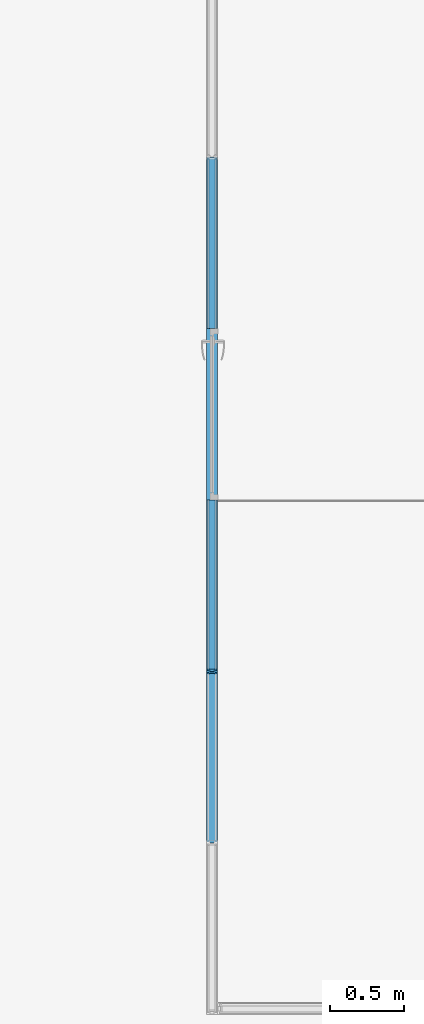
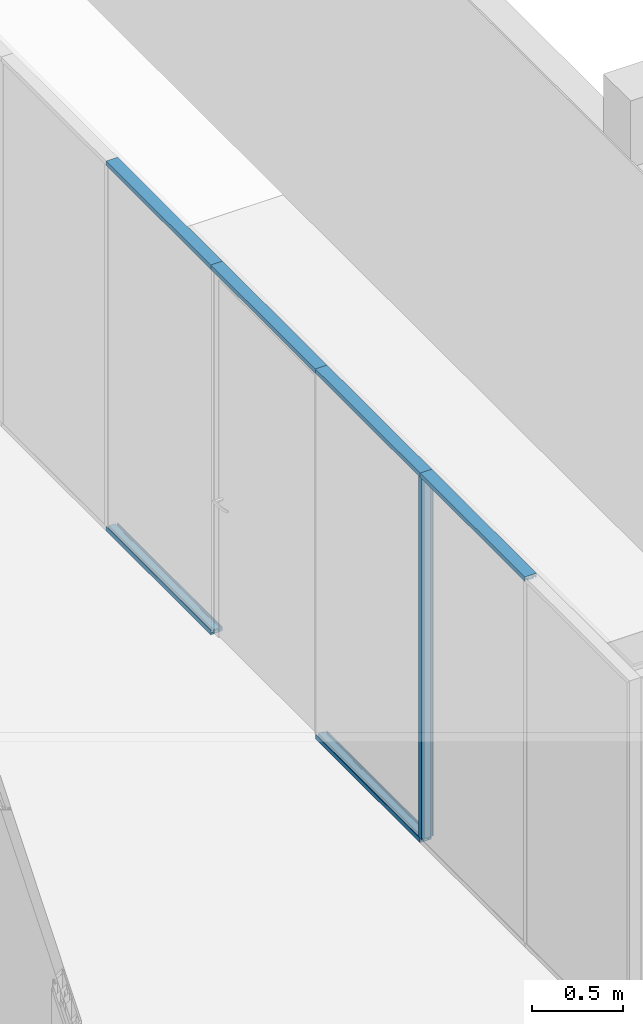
# One storey, part 7 of 79: 7 members, 1 element without a shape of its own.
"""IFC2X3 building model written with IfcOpenShell, lengths in millimetres."""

from ifc_helpers import new_model, entity, si_unit, converted_unit, derived_unit, money_unit, direction, frame, origin_with_axes, place, context, subcontext, project, spatial, faceted_brep, source, transform, mapped, material, material_list, type_object, element, aggregate, save


model = new_model("IFC2X3")

# Units and contexts
model_context = context("Model", 3, precision=0.01, world=origin_with_axes(), true_north=direction((0.0, 1.0)))
body_context = subcontext(model_context, "Body", "Model", "MODEL_VIEW")
ifc_project = project(units=[si_unit("LENGTHUNIT", "METRE", prefix="MILLI"), si_unit("AREAUNIT", "SQUARE_METRE"), si_unit("VOLUMEUNIT", "CUBIC_METRE"), converted_unit("PLANEANGLEUNIT", "DEGREE", entity("IfcPlaneAngleMeasure", 0.0174532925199), si_unit("PLANEANGLEUNIT", "RADIAN"), dimensions=[0, 0, 0, 0, 0, 0, 0]), si_unit("SOLIDANGLEUNIT", "STERADIAN"), money_unit("EUR"), converted_unit("TIMEUNIT", "Year", entity("IfcTimeMeasure", 31556926.0), si_unit("TIMEUNIT", "SECOND"), dimensions=[0, 0, 1, 0, 0, 0, 0]), si_unit("MASSUNIT", "GRAM", prefix="KILO"), si_unit("THERMODYNAMICTEMPERATUREUNIT", "DEGREE_CELSIUS"), si_unit("LUMINOUSINTENSITYUNIT", "LUMEN"), si_unit("ENERGYUNIT", "JOULE", prefix="MEGA"), derived_unit("THERMALCONDUCTANCEUNIT", [(si_unit("POWERUNIT", "WATT"), 1), (si_unit("LENGTHUNIT", "METRE"), -1), (si_unit("THERMODYNAMICTEMPERATUREUNIT", "KELVIN"), -1)]), derived_unit("SPECIFICHEATCAPACITYUNIT", [(si_unit("ENERGYUNIT", "JOULE"), 1), (si_unit("MASSUNIT", "GRAM", prefix="KILO"), -1), (si_unit("THERMODYNAMICTEMPERATUREUNIT", "KELVIN"), -1)]), derived_unit("MASSDENSITYUNIT", [(si_unit("MASSUNIT", "GRAM", prefix="KILO"), 1), (si_unit("VOLUMEUNIT", "CUBIC_METRE"), -1)])], contexts=[model_context])

# Site, building, storey
site_placement = place(None, origin_with_axes())
site = spatial("IfcSite", under=ifc_project, at=site_placement, Name="L.Koidula tn 11b", CompositionType="ELEMENT")
building_placement = place(site_placement, origin_with_axes())
building = spatial("IfcBuilding", under=site, at=building_placement, Name="Rakvere Riigigümnaasium", CompositionType="ELEMENT")
storey_placement = place(building_placement, frame((0.0, 0.0, 3720.0), z_axis=(0.0, 0.0, 1.0), x_axis=(1.0, 0.0, 0.0)))
storey = spatial("IfcBuildingStorey", under=building, at=storey_placement, Name="2.korrus +3,72", CompositionType="ELEMENT", Elevation=3720.0)

# Curtain wall, members
curtain_wall_type = type_object("IfcCurtainWallType", Name="Curtain Wall Type", PredefinedType="NOTDEFINED")
curtain_wall_placement = place(storey_placement, frame((44568.0000786, 20404.7190306, -3.55964617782e-05), z_axis=(0.0, 0.0, 1.0), x_axis=(1.0, 0.0, 0.0)))
curtain_wall = element("IfcCurtainWall", 1, at=curtain_wall_placement, inside=storey, type_object=curtain_wall_type, Name="SKLF-17")
ifc_material_1 = material(Name="Klaasvill")
ifc_material_2 = material(Name="Teras RAL7012")
ifc_material_list = material_list([ifc_material_1, ifc_material_2])
member_type_1 = type_object("IfcMemberType", Name="Boundary Frame 30 x 42", PredefinedType="MULLION")
shared_shape_1 = source(origin_with_axes(), body_context, "Body", "Brep", [
    faceted_brep([(-7.49999990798, 15.000000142, 0.0), (-7.49999990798, 15.000000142, 1156.0), (-13.8499999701, 15.000000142, 1156.0), (-13.8499999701, 15.000000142, 0.0), (-7.49999990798, 29.0161444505, 0.0), (-7.49999990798, 29.0161444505, 1156.0), (-13.8499999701, 29.0161444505, 1156.0), (-13.8499999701, 29.0161444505, 0.0)], [[[0, 1, 2, 3]], [[4, 5, 1, 0]], [[1, 5, 6, 2]], [[3, 2, 6, 7]], [[0, 3, 7, 4]], [[7, 6, 5, 4]]]),
    faceted_brep([(-24.987414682, 29.0161444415, 0.0), (-24.987414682, 29.0161444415, 1156.0), (-25.004489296, 27.0307503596, 1156.0), (-25.004489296, 27.0307503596, 0.0), (-28.5126239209, 29.0161444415, 0.0), (-28.5126239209, 29.0161444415, 1156.0), (-28.7655837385, 28.0385325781, 1156.0), (-28.4955493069, 27.0307503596, 1156.0), (-27.75780152, 26.2930025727, 1156.0), (-26.7500193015, 26.0229681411, 1156.0), (-25.742237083, 26.2930025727, 1156.0), (-25.742237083, 26.2930025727, 0.0), (-26.7500193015, 26.0229681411, 0.0), (-27.75780152, 26.2930025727, 0.0), (-28.4955493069, 27.0307503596, 0.0), (-28.7655837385, 28.0385325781, 0.0)], [[[0, 1, 2, 3]], [[4, 5, 1, 0]], [[1, 5, 6, 7, 8, 9, 10, 2]], [[3, 2, 10, 11]], [[0, 3, 11, 12, 13, 14, 15, 4]], [[15, 6, 5, 4]], [[14, 7, 6, 15]], [[13, 8, 7, 14]], [[12, 9, 8, 13]], [[11, 10, 9, 12]]]),
    faceted_brep([(-7.49999990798, -24.9999997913, 0.0), (-7.49999990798, -24.9999997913, 1156.0), (-7.49999990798, -39.0161445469, 1156.0), (-7.49999990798, -39.0161445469, 0.0), (-13.8499999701, -24.9999997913, 0.0), (-13.8499999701, -24.9999997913, 1156.0), (-13.8499999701, -39.0161445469, 1156.0), (-13.8499999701, -39.0161445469, 0.0)], [[[0, 1, 2, 3]], [[4, 5, 1, 0]], [[1, 5, 6, 2]], [[3, 2, 6, 7]], [[0, 3, 7, 4]], [[7, 6, 5, 4]]]),
    faceted_brep([(-25.004489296, -37.0307503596, 0.0), (-25.004489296, -37.0307503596, 1156.0), (-24.987414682, -39.0161444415, 1156.0), (-24.987414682, -39.0161444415, 0.0), (-25.742237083, -36.2930025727, 0.0), (-25.742237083, -36.2930025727, 1156.0), (-26.7500193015, -36.0229681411, 1156.0), (-27.75780152, -36.2930025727, 1156.0), (-28.4955493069, -37.0307503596, 1156.0), (-28.7655837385, -38.0385325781, 1156.0), (-28.5126239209, -39.0161444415, 1156.0), (-28.5126239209, -39.0161444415, 0.0), (-28.7655837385, -38.0385325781, 0.0), (-28.4955493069, -37.0307503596, 0.0), (-27.75780152, -36.2930025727, 0.0), (-26.7500193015, -36.0229681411, 0.0)], [[[0, 1, 2, 3]], [[4, 5, 1, 0]], [[1, 5, 6, 7, 8, 9, 10, 2]], [[3, 2, 10, 11]], [[0, 3, 11, 12, 13, 14, 15, 4]], [[15, 6, 5, 4]], [[14, 7, 6, 15]], [[13, 8, 7, 14]], [[12, 9, 8, 13]], [[11, 10, 9, 12]]]),
    faceted_brep([(0.0, -22.0000000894, 0.0), (0.0, -22.0000000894, 1156.0), (-29.5999996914, -22.0000000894, 1156.0), (-29.5999996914, -22.0000000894, 0.0), (0.0, 12.0000000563, 0.0), (0.0, 12.0000000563, 1156.0), (-29.5999996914, 12.0000000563, 1156.0), (-1.9999999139, 10.0000001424, 1156.0), (-1.9999999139, -20.0000001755, 1156.0), (-18.7999996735, -20.0000001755, 1156.0), (-18.7999996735, 10.0000001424, 1156.0), (-29.5999996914, 12.0000000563, 0.0), (-1.9999999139, 10.0000001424, 0.0), (-18.7999996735, 10.0000001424, 0.0), (-18.7999996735, -20.0000001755, 0.0), (-1.9999999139, -20.0000001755, 0.0)], [[[0, 1, 2, 3]], [[4, 5, 1, 0]], [[1, 5, 6, 2], [7, 8, 9, 10]], [[3, 2, 6, 11]], [[0, 3, 11, 4], [12, 13, 14, 15]], [[11, 6, 5, 4]], [[15, 8, 7, 12]], [[14, 9, 8, 15]], [[13, 10, 9, 14]], [[12, 7, 10, 13]]]),
    faceted_brep([(0.0, 12.0, 0.0), (0.0, 12.0, 1156.0), (-29.5999996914, 12.0000000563, 1156.0), (-29.5999996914, 12.0000000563, 0.0), (0.0, 32.0, 0.0), (0.0, 32.0, 1156.0), (-30.0000193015, 32.0, 1156.0), (-30.0000193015, 29.0161444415, 1156.0), (-28.5126239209, 29.0161444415, 1156.0), (-24.987414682, 29.0161444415, 1156.0), (-13.8499999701, 29.0161444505, 1156.0), (-7.49999999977, 29.0161444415, 1156.0), (-7.49999999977, 15.0, 1156.0), (-13.8499999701, 15.000000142, 1156.0), (-30.0000193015, 15.0, 1156.0), (-30.0000193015, 12.0, 1156.0), (-30.0000193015, 12.0, 0.0), (-30.0000193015, 15.0, 0.0), (-13.8499999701, 15.000000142, 0.0), (-7.49999999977, 15.0, 0.0), (-7.49999999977, 29.0161444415, 0.0), (-13.8499999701, 29.0161444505, 0.0), (-24.987414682, 29.0161444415, 0.0), (-28.5126239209, 29.0161444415, 0.0), (-30.0000193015, 29.0161444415, 0.0), (-30.0000193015, 32.0, 0.0)], [[[0, 1, 2, 3]], [[4, 5, 1, 0]], [[1, 5, 6, 7, 8, 9, 10, 11, 12, 13, 14, 15, 2]], [[3, 2, 15, 16]], [[0, 3, 16, 17, 18, 19, 20, 21, 22, 23, 24, 25, 4]], [[25, 6, 5, 4]], [[24, 7, 6, 25]], [[23, 8, 7, 24]], [[22, 9, 8, 23]], [[21, 10, 9, 22]], [[20, 11, 10, 21]], [[19, 12, 11, 20]], [[18, 13, 12, 19]], [[17, 14, 13, 18]], [[16, 15, 14, 17]]]),
    faceted_brep([(0.0, -22.0, 0.0), (0.0, -22.0, 1156.0), (0.0, -42.0, 1156.0), (0.0, -42.0, 0.0), (-29.5999996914, -22.0000000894, 0.0), (-29.5999996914, -22.0000000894, 1156.0), (-30.0000193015, -22.0, 1156.0), (-30.0000193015, -25.0, 1156.0), (-13.8499999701, -24.9999997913, 1156.0), (-7.49999999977, -25.0, 1156.0), (-7.49999999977, -39.0161444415, 1156.0), (-13.8499999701, -39.0161445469, 1156.0), (-24.987414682, -39.0161444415, 1156.0), (-28.5126239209, -39.0161444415, 1156.0), (-30.0000193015, -39.0161444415, 1156.0), (-30.0000193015, -42.0, 1156.0), (-30.0000193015, -42.0, 0.0), (-30.0000193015, -39.0161444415, 0.0), (-28.5126239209, -39.0161444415, 0.0), (-24.987414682, -39.0161444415, 0.0), (-13.8499999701, -39.0161445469, 0.0), (-7.49999999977, -39.0161444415, 0.0), (-7.49999999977, -25.0, 0.0), (-13.8499999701, -24.9999997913, 0.0), (-30.0000193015, -25.0, 0.0), (-30.0000193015, -22.0, 0.0)], [[[0, 1, 2, 3]], [[4, 5, 1, 0]], [[1, 5, 6, 7, 8, 9, 10, 11, 12, 13, 14, 15, 2]], [[3, 2, 15, 16]], [[0, 3, 16, 17, 18, 19, 20, 21, 22, 23, 24, 25, 4]], [[25, 6, 5, 4]], [[24, 7, 6, 25]], [[23, 8, 7, 24]], [[22, 9, 8, 23]], [[21, 10, 9, 22]], [[20, 11, 10, 21]], [[19, 12, 11, 20]], [[18, 13, 12, 19]], [[17, 14, 13, 18]], [[16, 15, 14, 17]]]),
])
member_1_placement = place(curtain_wall_placement, frame((0.0, 578.5, 2493.0000356), z_axis=(0.0, 1.0, 0.0), x_axis=(0.0, 0.0, 1.0)))
member_1 = element("IfcMember", 2, at=member_1_placement, type_object=member_type_1, material=ifc_material_list, Name="SKLF-80-raam", ObjectType="MULLION", context=body_context, shape_type="MappedRepresentation", body=[
    mapped(shared_shape_1, transform((0.0, 0.0, 0.0))),
])
member_2_placement = place(curtain_wall_placement, frame((0.0, 1734.5, 2493.0000356), z_axis=(0.0, 1.0, 0.0), x_axis=(0.0, 0.0, 1.0)))
member_2 = element("IfcMember", 3, at=member_2_placement, type_object=member_type_1, material=ifc_material_list, Name="SKLF-79-raam", ObjectType="MULLION", context=body_context, shape_type="MappedRepresentation", body=[
    mapped(shared_shape_1, transform((0.0, 0.0, 0.0))),
])
member_3_placement = place(curtain_wall_placement, frame((0.0, 2890.5, 2493.0000356), z_axis=(0.0, 1.0, 0.0), x_axis=(0.0, 0.0, 1.0)))
member_3 = element("IfcMember", 4, at=member_3_placement, type_object=member_type_1, material=ifc_material_list, Name="SKLF-78-raam", ObjectType="MULLION", context=body_context, shape_type="MappedRepresentation", body=[
    mapped(shared_shape_1, transform((0.0, 0.0, 0.0))),
])
member_4_placement = place(curtain_wall_placement, frame((0.0, 4046.5, 2493.0000356), z_axis=(0.0, 1.0, 0.0), x_axis=(0.0, 0.0, 1.0)))
member_4 = element("IfcMember", 5, at=member_4_placement, type_object=member_type_1, material=ifc_material_list, Name="SKLF-77-raam", ObjectType="MULLION", context=body_context, shape_type="MappedRepresentation", body=[
    mapped(shared_shape_1, transform((0.0, 0.0, 0.0))),
])
shared_shape_2 = source(origin_with_axes(), body_context, "Body", "Brep", [
    faceted_brep([(7.49999990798, 15.000000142, 0.0), (13.8499999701, 15.000000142, 0.0), (13.8499999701, 15.000000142, 1156.0), (7.49999990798, 15.000000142, 1156.0), (7.49999990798, 29.0161444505, 0.0), (13.8499999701, 29.0161444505, 0.0), (13.8499999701, 29.0161444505, 1156.0), (7.49999990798, 29.0161444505, 1156.0)], [[[0, 1, 2, 3]], [[0, 4, 5, 1]], [[1, 5, 6, 2]], [[3, 2, 6, 7]], [[4, 0, 3, 7]], [[5, 4, 7, 6]]]),
    faceted_brep([(24.987414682, 29.0161444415, 0.0), (25.004489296, 27.0307503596, 0.0), (25.004489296, 27.0307503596, 1156.0), (24.987414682, 29.0161444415, 1156.0), (28.5126239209, 29.0161444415, 0.0), (28.7655837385, 28.0385325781, 0.0), (28.4955493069, 27.0307503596, 0.0), (27.75780152, 26.2930025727, 0.0), (26.7500193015, 26.0229681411, 0.0), (25.742237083, 26.2930025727, 0.0), (25.742237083, 26.2930025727, 1156.0), (26.7500193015, 26.0229681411, 1156.0), (27.75780152, 26.2930025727, 1156.0), (28.4955493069, 27.0307503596, 1156.0), (28.7655837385, 28.0385325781, 1156.0), (28.5126239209, 29.0161444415, 1156.0)], [[[0, 1, 2, 3]], [[0, 4, 5, 6, 7, 8, 9, 1]], [[1, 9, 10, 2]], [[3, 2, 10, 11, 12, 13, 14, 15]], [[4, 0, 3, 15]], [[5, 4, 15, 14]], [[6, 5, 14, 13]], [[7, 6, 13, 12]], [[8, 7, 12, 11]], [[9, 8, 11, 10]]]),
    faceted_brep([(7.49999990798, -24.9999997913, 0.0), (7.49999990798, -39.0161445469, 0.0), (7.49999990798, -39.0161445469, 1156.0), (7.49999990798, -24.9999997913, 1156.0), (13.8499999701, -24.9999997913, 0.0), (13.8499999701, -39.0161445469, 0.0), (13.8499999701, -39.0161445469, 1156.0), (13.8499999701, -24.9999997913, 1156.0)], [[[0, 1, 2, 3]], [[0, 4, 5, 1]], [[1, 5, 6, 2]], [[3, 2, 6, 7]], [[4, 0, 3, 7]], [[5, 4, 7, 6]]]),
    faceted_brep([(25.004489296, -37.0307503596, 0.0), (24.987414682, -39.0161444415, 0.0), (24.987414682, -39.0161444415, 1156.0), (25.004489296, -37.0307503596, 1156.0), (25.742237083, -36.2930025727, 0.0), (26.7500193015, -36.0229681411, 0.0), (27.75780152, -36.2930025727, 0.0), (28.4955493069, -37.0307503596, 0.0), (28.7655837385, -38.0385325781, 0.0), (28.5126239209, -39.0161444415, 0.0), (28.5126239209, -39.0161444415, 1156.0), (28.7655837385, -38.0385325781, 1156.0), (28.4955493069, -37.0307503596, 1156.0), (27.75780152, -36.2930025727, 1156.0), (26.7500193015, -36.0229681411, 1156.0), (25.742237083, -36.2930025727, 1156.0)], [[[0, 1, 2, 3]], [[0, 4, 5, 6, 7, 8, 9, 1]], [[1, 9, 10, 2]], [[3, 2, 10, 11, 12, 13, 14, 15]], [[4, 0, 3, 15]], [[5, 4, 15, 14]], [[6, 5, 14, 13]], [[7, 6, 13, 12]], [[8, 7, 12, 11]], [[9, 8, 11, 10]]]),
    faceted_brep([(0.0, -22.0000000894, 0.0), (29.5999996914, -22.0000000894, 0.0), (29.5999996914, -22.0000000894, 1156.0), (0.0, -22.0000000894, 1156.0), (0.0, 12.0000000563, 0.0), (29.5999996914, 12.0000000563, 0.0), (1.9999999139, 10.0000001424, 0.0), (1.9999999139, -20.0000001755, 0.0), (18.7999996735, -20.0000001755, 0.0), (18.7999996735, 10.0000001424, 0.0), (29.5999996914, 12.0000000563, 1156.0), (0.0, 12.0000000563, 1156.0), (1.9999999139, 10.0000001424, 1156.0), (18.7999996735, 10.0000001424, 1156.0), (18.7999996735, -20.0000001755, 1156.0), (1.9999999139, -20.0000001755, 1156.0)], [[[0, 1, 2, 3]], [[0, 4, 5, 1], [6, 7, 8, 9]], [[1, 5, 10, 2]], [[3, 2, 10, 11], [12, 13, 14, 15]], [[4, 0, 3, 11]], [[5, 4, 11, 10]], [[7, 6, 12, 15]], [[8, 7, 15, 14]], [[9, 8, 14, 13]], [[6, 9, 13, 12]]]),
    faceted_brep([(0.0, 12.0, 0.0), (29.5999996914, 12.0000000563, 0.0), (29.5999996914, 12.0000000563, 1156.0), (0.0, 12.0, 1156.0), (0.0, 32.0, 0.0), (30.0000193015, 32.0, 0.0), (30.0000193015, 29.0161444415, 0.0), (28.5126239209, 29.0161444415, 0.0), (24.987414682, 29.0161444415, 0.0), (13.8499999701, 29.0161444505, 0.0), (7.49999999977, 29.0161444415, 0.0), (7.49999999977, 15.0, 0.0), (13.8499999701, 15.000000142, 0.0), (30.0000193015, 15.0, 0.0), (30.0000193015, 12.0, 0.0), (30.0000193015, 12.0, 1156.0), (30.0000193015, 15.0, 1156.0), (13.8499999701, 15.000000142, 1156.0), (7.49999999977, 15.0, 1156.0), (7.49999999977, 29.0161444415, 1156.0), (13.8499999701, 29.0161444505, 1156.0), (24.987414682, 29.0161444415, 1156.0), (28.5126239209, 29.0161444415, 1156.0), (30.0000193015, 29.0161444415, 1156.0), (30.0000193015, 32.0, 1156.0), (0.0, 32.0, 1156.0)], [[[0, 1, 2, 3]], [[0, 4, 5, 6, 7, 8, 9, 10, 11, 12, 13, 14, 1]], [[1, 14, 15, 2]], [[3, 2, 15, 16, 17, 18, 19, 20, 21, 22, 23, 24, 25]], [[4, 0, 3, 25]], [[5, 4, 25, 24]], [[6, 5, 24, 23]], [[7, 6, 23, 22]], [[8, 7, 22, 21]], [[9, 8, 21, 20]], [[10, 9, 20, 19]], [[11, 10, 19, 18]], [[12, 11, 18, 17]], [[13, 12, 17, 16]], [[14, 13, 16, 15]]]),
    faceted_brep([(0.0, -22.0, 0.0), (0.0, -42.0, 0.0), (0.0, -42.0, 1156.0), (0.0, -22.0, 1156.0), (29.5999996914, -22.0000000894, 0.0), (30.0000193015, -22.0, 0.0), (30.0000193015, -25.0, 0.0), (13.8499999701, -24.9999997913, 0.0), (7.49999999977, -25.0, 0.0), (7.49999999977, -39.0161444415, 0.0), (13.8499999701, -39.0161445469, 0.0), (24.987414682, -39.0161444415, 0.0), (28.5126239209, -39.0161444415, 0.0), (30.0000193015, -39.0161444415, 0.0), (30.0000193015, -42.0, 0.0), (30.0000193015, -42.0, 1156.0), (30.0000193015, -39.0161444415, 1156.0), (28.5126239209, -39.0161444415, 1156.0), (24.987414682, -39.0161444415, 1156.0), (13.8499999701, -39.0161445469, 1156.0), (7.49999999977, -39.0161444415, 1156.0), (7.49999999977, -25.0, 1156.0), (13.8499999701, -24.9999997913, 1156.0), (30.0000193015, -25.0, 1156.0), (30.0000193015, -22.0, 1156.0), (29.5999996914, -22.0000000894, 1156.0)], [[[0, 1, 2, 3]], [[0, 4, 5, 6, 7, 8, 9, 10, 11, 12, 13, 14, 1]], [[1, 14, 15, 2]], [[3, 2, 15, 16, 17, 18, 19, 20, 21, 22, 23, 24, 25]], [[4, 0, 3, 25]], [[5, 4, 25, 24]], [[6, 5, 24, 23]], [[7, 6, 23, 22]], [[8, 7, 22, 21]], [[9, 8, 21, 20]], [[10, 9, 20, 19]], [[11, 10, 19, 18]], [[12, 11, 18, 17]], [[13, 12, 17, 16]], [[14, 13, 16, 15]]]),
])
member_5_placement = place(curtain_wall_placement, frame((0.0, 1734.5, 0.0), z_axis=(0.0, 1.0, 0.0), x_axis=(0.0, 0.0, 1.0)))
member_5 = element("IfcMember", 6, at=member_5_placement, type_object=member_type_1, material=ifc_material_list, Name="SKLF-69-raam", ObjectType="MULLION", context=body_context, shape_type="MappedRepresentation", body=[
    mapped(shared_shape_2, transform((0.0, 0.0, 0.0))),
])
member_6_placement = place(curtain_wall_placement, frame((0.0, 4046.5, 0.0), z_axis=(0.0, 1.0, 0.0), x_axis=(0.0, 0.0, 1.0)))
member_6 = element("IfcMember", 7, at=member_6_placement, type_object=member_type_1, material=ifc_material_list, Name="SKLF-71-raam", ObjectType="MULLION", context=body_context, shape_type="MappedRepresentation", body=[
    mapped(shared_shape_2, transform((0.0, 0.0, 0.0))),
])
member_type_2 = type_object("IfcMemberType", Name="Siseklaasfassaad-Vaheprofiil-Doubleline30 34 x 42", PredefinedType="MULLION")
shared_shape_3 = source(origin_with_axes(), body_context, "Body", "Brep", [
    faceted_brep([(12.004489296, 27.0307503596, 30.0000193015), (12.004489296, 27.0307503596, 2463.00001629), (11.987414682, 29.0161444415, 2463.00001629), (11.987414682, 29.0161444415, 30.0000193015), (12.742237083, 26.2930025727, 30.0000193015), (12.742237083, 26.2930025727, 2463.00001629), (13.7500193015, 26.0229681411, 2463.00001629), (14.75780152, 26.2930025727, 2463.00001629), (15.4955493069, 27.0307503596, 2463.00001629), (15.7655837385, 28.0385325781, 2463.00001629), (15.5126239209, 29.0161444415, 2463.00001629), (15.5126239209, 29.0161444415, 30.0000193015), (15.7655837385, 28.0385325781, 30.0000193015), (15.4955493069, 27.0307503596, 30.0000193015), (14.75780152, 26.2930025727, 30.0000193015), (13.7500193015, 26.0229681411, 30.0000193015)], [[[0, 1, 2, 3]], [[4, 5, 1, 0]], [[2, 1, 5, 6, 7, 8, 9, 10]], [[3, 2, 10, 11]], [[3, 11, 12, 13, 14, 15, 4, 0]], [[15, 6, 5, 4]], [[14, 7, 6, 15]], [[13, 8, 7, 14]], [[12, 9, 8, 13]], [[11, 10, 9, 12]]]),
    faceted_brep([(15.4955493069, -37.0307503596, 30.0000193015), (15.4955493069, -37.0307503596, 2463.00001629), (15.5126239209, -39.0161444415, 2463.00001629), (15.5126239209, -39.0161444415, 30.0000193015), (14.75780152, -36.2930025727, 30.0000193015), (14.75780152, -36.2930025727, 2463.00001629), (13.7500193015, -36.0229681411, 2463.00001629), (12.742237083, -36.2930025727, 2463.00001629), (12.004489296, -37.0307503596, 2463.00001629), (11.7344548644, -38.0385325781, 2463.00001629), (11.987414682, -39.0161444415, 2463.00001629), (11.987414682, -39.0161444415, 30.0000193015), (11.7344548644, -38.0385325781, 30.0000193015), (12.004489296, -37.0307503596, 30.0000193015), (12.742237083, -36.2930025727, 30.0000193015), (13.7500193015, -36.0229681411, 30.0000193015)], [[[0, 1, 2, 3]], [[4, 5, 1, 0]], [[2, 1, 5, 6, 7, 8, 9, 10]], [[3, 2, 10, 11]], [[3, 11, 12, 13, 14, 15, 4, 0]], [[15, 6, 5, 4]], [[14, 7, 6, 15]], [[13, 8, 7, 14]], [[12, 9, 8, 13]], [[11, 10, 9, 12]]]),
    faceted_brep([(-15.7655837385, 28.0385325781, 30.0000193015), (-15.7655837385, 28.0385325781, 2463.00001629), (-11.987414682, 29.0161444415, 2463.00001629), (-11.987414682, 29.0161444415, 30.0000193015), (-15.4955493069, 27.0307503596, 30.0000193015), (-15.4955493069, 27.0307503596, 2463.00001629), (-14.75780152, 26.2930025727, 2463.00001629), (-13.7500193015, 26.0229681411, 2463.00001629), (-12.742237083, 26.2930025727, 2463.00001629), (-12.004489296, 27.0307503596, 2463.00001629), (-11.7344548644, 28.0385325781, 2463.00001629), (-11.7344548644, 28.0385325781, 30.0000193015), (-12.004489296, 27.0307503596, 30.0000193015), (-12.742237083, 26.2930025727, 30.0000193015), (-13.7500193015, 26.0229681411, 30.0000193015), (-14.75780152, 26.2930025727, 30.0000193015)], [[[0, 1, 2, 3]], [[4, 5, 1, 0]], [[2, 1, 5, 6, 7, 8, 9, 10]], [[3, 2, 10, 11]], [[3, 11, 12, 13, 14, 15, 4, 0]], [[15, 6, 5, 4]], [[14, 7, 6, 15]], [[13, 8, 7, 14]], [[12, 9, 8, 13]], [[11, 10, 9, 12]]]),
    faceted_brep([(-15.5126239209, -39.0161444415, 30.0000193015), (-15.5126239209, -39.0161444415, 2463.00001629), (-15.4955493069, -37.0307503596, 2463.00001629), (-15.4955493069, -37.0307503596, 30.0000193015), (-11.987414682, -39.0161444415, 30.0000193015), (-11.987414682, -39.0161444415, 2463.00001629), (-11.7344548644, -38.0385325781, 2463.00001629), (-12.004489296, -37.0307503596, 2463.00001629), (-12.742237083, -36.2930025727, 2463.00001629), (-13.7500193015, -36.0229681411, 2463.00001629), (-14.75780152, -36.2930025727, 2463.00001629), (-14.75780152, -36.2930025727, 30.0000193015), (-13.7500193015, -36.0229681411, 30.0000193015), (-12.742237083, -36.2930025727, 30.0000193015), (-12.004489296, -37.0307503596, 30.0000193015), (-11.7344548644, -38.0385325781, 30.0000193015)], [[[0, 1, 2, 3]], [[4, 5, 1, 0]], [[2, 1, 5, 6, 7, 8, 9, 10]], [[3, 2, 10, 11]], [[3, 11, 12, 13, 14, 15, 4, 0]], [[15, 6, 5, 4]], [[14, 7, 6, 15]], [[13, 8, 7, 14]], [[12, 9, 8, 13]], [[11, 10, 9, 12]]]),
    faceted_brep([(-3.08905781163e-07, -22.0000000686, 30.0000193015), (-3.08905781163e-07, -22.0000000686, 2463.00001629), (-14.8000001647, -22.0000000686, 2463.00001629), (-14.8000001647, -22.0000000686, 30.0000193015), (14.8000003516, -22.0000000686, 30.0000193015), (14.8000003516, -22.0000000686, 2463.00001629), (14.8000003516, 12.0000001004, 2463.00001629), (-3.08905781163e-07, 12.0000001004, 2463.00001629), (-14.8000001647, 12.0000001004, 2463.00001629), (-12.8000002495, 10.0000001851, 2463.00001629), (4.0000003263, 10.0000001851, 2463.00001629), (4.0000003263, -20.0000001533, 2463.00001629), (-12.8000002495, -20.0000001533, 2463.00001629), (-14.8000001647, 12.0000001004, 30.0000193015), (-3.08905781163e-07, 12.0000001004, 30.0000193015), (14.8000003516, 12.0000001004, 30.0000193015), (-12.8000002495, 10.0000001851, 30.0000193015), (-12.8000002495, -20.0000001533, 30.0000193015), (4.0000003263, -20.0000001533, 30.0000193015), (4.0000003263, 10.0000001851, 30.0000193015)], [[[0, 1, 2, 3]], [[4, 5, 1, 0]], [[2, 1, 5, 6, 7, 8], [9, 10, 11, 12]], [[3, 2, 8, 13]], [[3, 13, 14, 15, 4, 0], [16, 17, 18, 19]], [[15, 6, 5, 4]], [[14, 7, 6, 15]], [[13, 8, 7, 14]], [[19, 10, 9, 16]], [[18, 11, 10, 19]], [[17, 12, 11, 18]], [[16, 9, 12, 17]]]),
    faceted_brep([(0.0, 12.0, 30.0000193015), (0.0, 12.0, 2463.00001629), (0.0, 32.0000000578, 2463.00001629), (0.0, 32.0000000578, 30.0000193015), (14.8000003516, 12.0000001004, 30.0000193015), (14.8000003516, 12.0000001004, 2463.00001629), (17.0000193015, 12.0, 2463.00001629), (17.0000193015, 15.0000000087, 2463.00001629), (7.50000002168, 15.0000000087, 2463.00001629), (7.50000002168, 29.0161446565, 2463.00001629), (11.987414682, 29.0161444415, 2463.00001629), (15.5126239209, 29.0161444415, 2463.00001629), (17.0000193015, 29.0161446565, 2463.00001629), (17.0000193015, 32.0000000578, 2463.00001629), (17.0000193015, 32.0000000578, 30.0000193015), (17.0000193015, 29.0161446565, 30.0000193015), (15.5126239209, 29.0161444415, 30.0000193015), (11.987414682, 29.0161444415, 30.0000193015), (7.50000002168, 29.0161446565, 30.0000193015), (7.50000002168, 15.0000000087, 30.0000193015), (17.0000193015, 15.0000000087, 30.0000193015), (17.0000193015, 12.0, 30.0000193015)], [[[0, 1, 2, 3]], [[4, 5, 1, 0]], [[2, 1, 5, 6, 7, 8, 9, 10, 11, 12, 13]], [[3, 2, 13, 14]], [[3, 14, 15, 16, 17, 18, 19, 20, 21, 4, 0]], [[21, 6, 5, 4]], [[20, 7, 6, 21]], [[19, 8, 7, 20]], [[18, 9, 8, 19]], [[17, 10, 9, 18]], [[16, 11, 10, 17]], [[15, 12, 11, 16]], [[14, 13, 12, 15]]]),
    faceted_brep([(0.0, -42.0, 30.0000193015), (0.0, -42.0, 2463.00001629), (0.0, -21.9999999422, 2463.00001629), (0.0, -21.9999999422, 30.0000193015), (17.0000193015, -42.0, 30.0000193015), (17.0000193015, -42.0, 2463.00001629), (17.0000193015, -39.0161445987, 2463.00001629), (15.5126239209, -39.0161444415, 2463.00001629), (11.987414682, -39.0161444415, 2463.00001629), (7.50000002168, -39.0161445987, 2463.00001629), (7.50000002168, -24.9999999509, 2463.00001629), (17.0000193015, -24.9999999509, 2463.00001629), (17.0000193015, -21.9999999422, 2463.00001629), (14.8000003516, -22.0000000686, 2463.00001629), (14.8000003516, -22.0000000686, 30.0000193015), (17.0000193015, -21.9999999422, 30.0000193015), (17.0000193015, -24.9999999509, 30.0000193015), (7.50000002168, -24.9999999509, 30.0000193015), (7.50000002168, -39.0161445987, 30.0000193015), (11.987414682, -39.0161444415, 30.0000193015), (15.5126239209, -39.0161444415, 30.0000193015), (17.0000193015, -39.0161445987, 30.0000193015)], [[[0, 1, 2, 3]], [[4, 5, 1, 0]], [[2, 1, 5, 6, 7, 8, 9, 10, 11, 12, 13]], [[3, 2, 13, 14]], [[3, 14, 15, 16, 17, 18, 19, 20, 21, 4, 0]], [[21, 6, 5, 4]], [[20, 7, 6, 21]], [[19, 8, 7, 20]], [[18, 9, 8, 19]], [[17, 10, 9, 18]], [[16, 11, 10, 17]], [[15, 12, 11, 16]], [[14, 13, 12, 15]]]),
    faceted_brep([(0.0, 32.0, 30.0000193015), (0.0, 32.0, 2463.00001629), (0.0, 12.0, 2463.00001629), (0.0, 12.0, 30.0000193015), (-17.0000193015, 32.0, 30.0000193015), (-17.0000193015, 32.0, 2463.00001629), (-17.0000193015, 29.0161444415, 2463.00001629), (-15.5126239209, 29.0161444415, 2463.00001629), (-11.987414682, 29.0161444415, 2463.00001629), (-7.49999999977, 29.0161444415, 2463.00001629), (-7.49999999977, 15.0, 2463.00001629), (-17.0000193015, 15.0, 2463.00001629), (-17.0000193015, 12.0, 2463.00001629), (-14.8000001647, 12.0000001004, 2463.00001629), (-14.8000001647, 12.0000001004, 30.0000193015), (-17.0000193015, 12.0, 30.0000193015), (-17.0000193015, 15.0, 30.0000193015), (-7.49999999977, 15.0, 30.0000193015), (-7.49999999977, 29.0161444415, 30.0000193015), (-11.987414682, 29.0161444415, 30.0000193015), (-15.5126239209, 29.0161444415, 30.0000193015), (-17.0000193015, 29.0161444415, 30.0000193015)], [[[0, 1, 2, 3]], [[4, 5, 1, 0]], [[2, 1, 5, 6, 7, 8, 9, 10, 11, 12, 13]], [[3, 2, 13, 14]], [[3, 14, 15, 16, 17, 18, 19, 20, 21, 4, 0]], [[21, 6, 5, 4]], [[20, 7, 6, 21]], [[19, 8, 7, 20]], [[18, 9, 8, 19]], [[17, 10, 9, 18]], [[16, 11, 10, 17]], [[15, 12, 11, 16]], [[14, 13, 12, 15]]]),
    faceted_brep([(-14.8000001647, -22.0000000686, 30.0000193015), (-14.8000001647, -22.0000000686, 2463.00001629), (0.0, -22.0, 2463.00001629), (0.0, -22.0, 30.0000193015), (-17.0000193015, -22.0, 30.0000193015), (-17.0000193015, -22.0, 2463.00001629), (-17.0000193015, -25.0, 2463.00001629), (-7.49999999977, -25.0, 2463.00001629), (-7.49999999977, -39.0161444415, 2463.00001629), (-11.987414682, -39.0161444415, 2463.00001629), (-15.5126239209, -39.0161444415, 2463.00001629), (-17.0000193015, -39.0161444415, 2463.00001629), (-17.0000193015, -42.0, 2463.00001629), (0.0, -42.0, 2463.00001629), (0.0, -42.0, 30.0000193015), (-17.0000193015, -42.0, 30.0000193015), (-17.0000193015, -39.0161444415, 30.0000193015), (-15.5126239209, -39.0161444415, 30.0000193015), (-11.987414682, -39.0161444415, 30.0000193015), (-7.49999999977, -39.0161444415, 30.0000193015), (-7.49999999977, -25.0, 30.0000193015), (-17.0000193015, -25.0, 30.0000193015)], [[[0, 1, 2, 3]], [[4, 5, 1, 0]], [[2, 1, 5, 6, 7, 8, 9, 10, 11, 12, 13]], [[3, 2, 13, 14]], [[3, 14, 15, 16, 17, 18, 19, 20, 21, 4, 0]], [[21, 6, 5, 4]], [[20, 7, 6, 21]], [[19, 8, 7, 20]], [[18, 9, 8, 19]], [[17, 10, 9, 18]], [[16, 11, 10, 17]], [[15, 12, 11, 16]], [[14, 13, 12, 15]]]),
])
member_7_placement = place(curtain_wall_placement, frame((0.0, 1734.5, 0.0), z_axis=(0.0, 0.0, 1.0), x_axis=(0.0, -1.0, 0.0)))
member_7 = element("IfcMember", 8, at=member_7_placement, type_object=member_type_2, material=ifc_material_list, Name="Frame-Siseklaasf-252", ObjectType="MULLION", context=body_context, shape_type="MappedRepresentation", body=[
    mapped(shared_shape_3, transform((0.0, 0.0, 0.0))),
])
aggregate(curtain_wall, [member_5, member_7, member_6, member_1, member_2, member_3, member_4])

save(model, "model.ifc")
